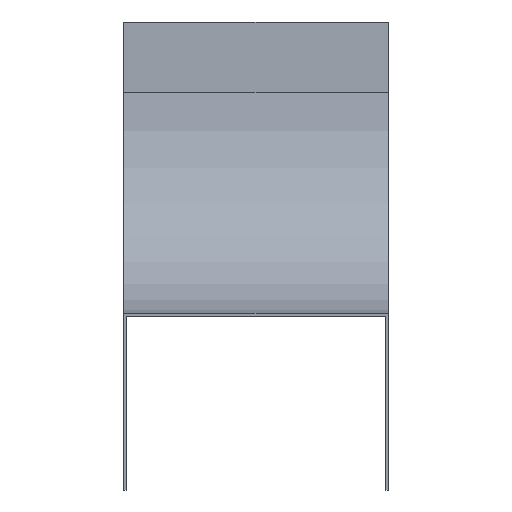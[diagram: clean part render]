
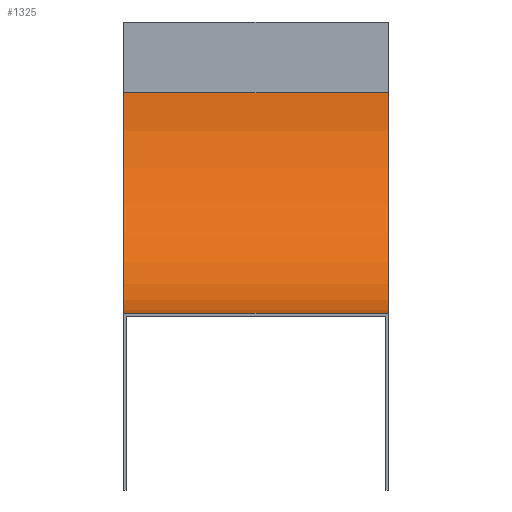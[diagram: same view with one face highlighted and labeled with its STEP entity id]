
A CAD part, front view. The second image highlights one B-rep face of the part: STEP entity #1325.
In plain terms, the highlighted cylindrical face has radius 125 mm (diameter 250 mm), a partial arc.
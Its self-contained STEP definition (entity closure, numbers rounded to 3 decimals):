
#32 = CYLINDRICAL_SURFACE ( 'NONE', #913, 125. ) ;
#137 = EDGE_CURVE ( 'NONE', #359, #700, #286, .T. ) ;
#258 = AXIS2_PLACEMENT_3D ( 'NONE', #1526, #778, #500 ) ;
#272 = CARTESIAN_POINT ( 'NONE',  ( -75., 0., -40. ) ) ;
#286 = LINE ( 'NONE', #1049, #896 ) ;
#359 = VERTEX_POINT ( 'NONE', #542 ) ;
#367 = EDGE_LOOP ( 'NONE', ( #728, #1006, #1606, #967 ) ) ;
#372 = AXIS2_PLACEMENT_3D ( 'NONE', #1657, #1052, #1195 ) ;
#430 = DIRECTION ( 'NONE',  ( -1., 0., 0. ) ) ;
#443 = LINE ( 'NONE', #1102, #912 ) ;
#500 = DIRECTION ( 'NONE',  ( 0., 0., 1. ) ) ;
#542 = CARTESIAN_POINT ( 'NONE',  ( 75., -125., -165. ) ) ;
#666 = CIRCLE ( 'NONE', #372, 125. ) ;
#700 = VERTEX_POINT ( 'NONE', #1028 ) ;
#728 = ORIENTED_EDGE ( 'NONE', *, *, #1616, .T. ) ;
#778 = DIRECTION ( 'NONE',  ( -1., 0., 0. ) ) ;
#816 = DIRECTION ( 'NONE',  ( -1., 0., 0. ) ) ;
#896 = VECTOR ( 'NONE', #430, 1000. ) ;
#912 = VECTOR ( 'NONE', #1367, 1000. ) ;
#913 = AXIS2_PLACEMENT_3D ( 'NONE', #1193, #816, #1042 ) ;
#967 = ORIENTED_EDGE ( 'NONE', *, *, #1015, .T. ) ;
#1006 = ORIENTED_EDGE ( 'NONE', *, *, #137, .F. ) ;
#1015 = EDGE_CURVE ( 'NONE', #1151, #1345, #443, .T. ) ;
#1028 = CARTESIAN_POINT ( 'NONE',  ( -75., -125., -165. ) ) ;
#1042 = DIRECTION ( 'NONE',  ( 0., 0., 1. ) ) ;
#1049 = CARTESIAN_POINT ( 'NONE',  ( 75., -125., -165. ) ) ;
#1052 = DIRECTION ( 'NONE',  ( -1., 0., 0. ) ) ;
#1102 = CARTESIAN_POINT ( 'NONE',  ( 75., 0., -40. ) ) ;
#1151 = VERTEX_POINT ( 'NONE', #1398 ) ;
#1193 = CARTESIAN_POINT ( 'NONE',  ( 75., -125., -40. ) ) ;
#1195 = DIRECTION ( 'NONE',  ( 0., 0., 1. ) ) ;
#1222 = EDGE_CURVE ( 'NONE', #1151, #359, #1673, .T. ) ;
#1309 = FACE_OUTER_BOUND ( 'NONE', #367, .T. ) ;
#1325 = ADVANCED_FACE ( 'NONE', ( #1309 ), #32, .F. ) ;
#1345 = VERTEX_POINT ( 'NONE', #272 ) ;
#1367 = DIRECTION ( 'NONE',  ( -1., 0., 0. ) ) ;
#1398 = CARTESIAN_POINT ( 'NONE',  ( 75., 0., -40. ) ) ;
#1526 = CARTESIAN_POINT ( 'NONE',  ( 75., -125., -40. ) ) ;
#1606 = ORIENTED_EDGE ( 'NONE', *, *, #1222, .F. ) ;
#1616 = EDGE_CURVE ( 'NONE', #1345, #700, #666, .T. ) ;
#1657 = CARTESIAN_POINT ( 'NONE',  ( -75., -125., -40. ) ) ;
#1673 = CIRCLE ( 'NONE', #258, 125. ) ;
